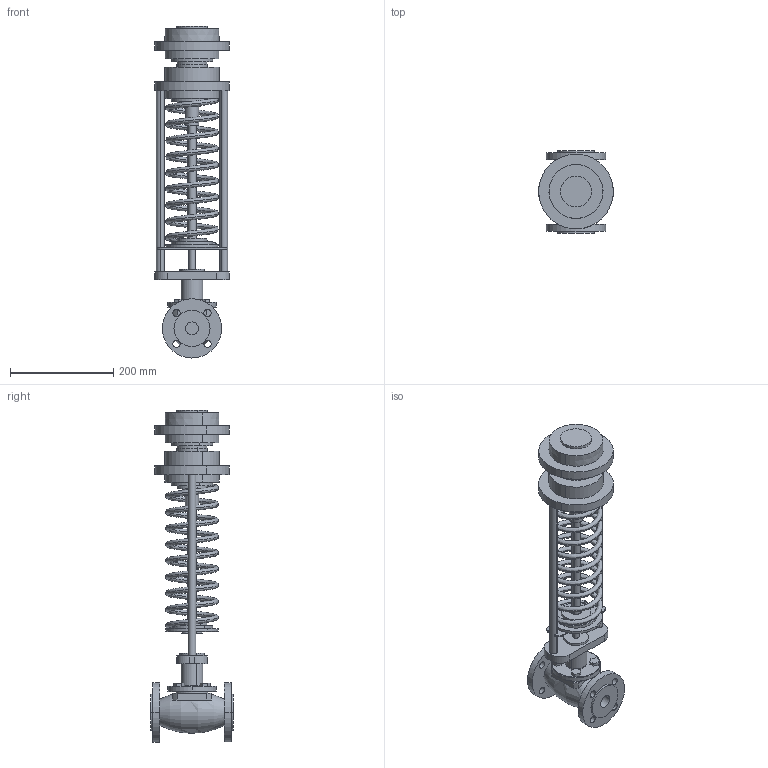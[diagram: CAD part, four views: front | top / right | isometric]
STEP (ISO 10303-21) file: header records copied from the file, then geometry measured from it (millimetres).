
FILE_DESCRIPTION (( 'STEP AP214' ), '1' );
FILE_NAME ('RDT-S, RDT-B DN-25 (0.1).STEP', '2025-12-12T09:17:45', ( '' ), ( '' ), 'SwSTEP 2.0', 'SolidWorks 2023', '' );
FILE_SCHEMA (( 'AUTOMOTIVE_DESIGN' ));
Length unit declared in the file: millimetre
Products named in the file (1): RDT-S, RDT-B DN-25 (0.1)
Bounding box: 145 x 160 x 644.5 mm (x, y, z)
Volume: 2997071.1 mm3; surface area: 391157.9 mm2
Topology: 1 solids, 2 shells, 222 faces, 523 edges, 339 vertices
Faces by surface type: cylinder 104, plane 89, cone 24, bspline 3, torus 2
Entity records: 9986 total; most frequent: CARTESIAN_POINT 4582, DIRECTION 1212, ORIENTED_EDGE 1046, EDGE_CURVE 523, AXIS2_PLACEMENT_3D 480, VERTEX_POINT 339, EDGE_LOOP 280, CIRCLE 260
